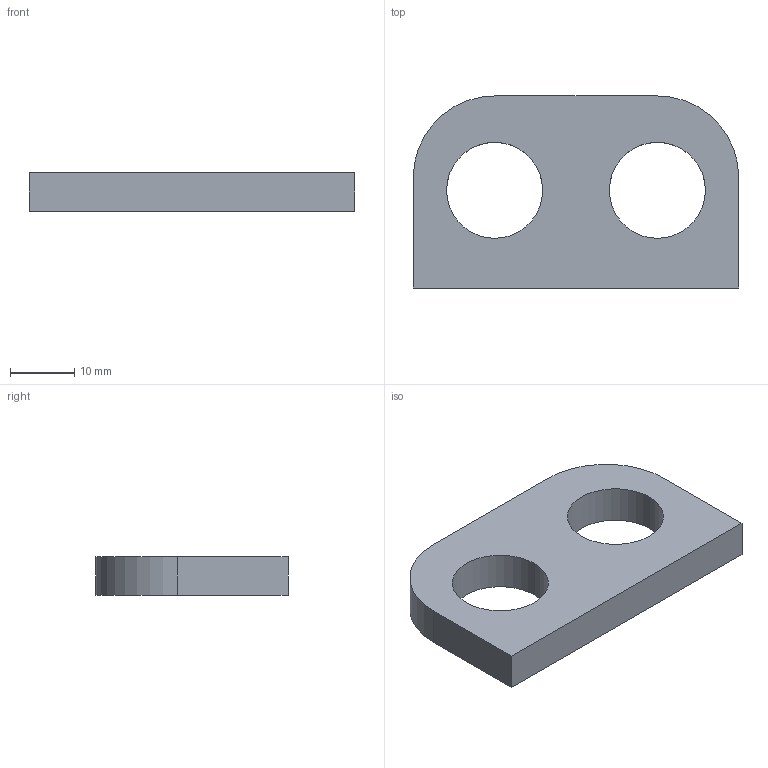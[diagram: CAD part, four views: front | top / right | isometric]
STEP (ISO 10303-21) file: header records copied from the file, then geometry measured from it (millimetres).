
FILE_DESCRIPTION (( 'STEP AP214' ), '1' );
FILE_NAME ('YYDK-500-0011 油管保护罩2（500T）-4.step', '2024-11-20T05:47:20', ( '' ), ( '' ), 'SwSTEP 2.0', 'SolidWorks 2020', '' );
FILE_SCHEMA (( 'AUTOMOTIVE_DESIGN' ));
Length unit declared in the file: inch
Products named in the file (1): YYDK-500-0011 油管保护罩2（500T）-4
Bounding box: 50.8 x 29.97 x 5.99 mm (x, y, z)
Volume: 6597.3 mm3; surface area: 3668.6 mm2
Topology: 1 solids, 1 shells, 12 faces, 30 edges, 20 vertices
Faces by surface type: cylinder 6, plane 6
Entity records: 414 total; most frequent: DIRECTION 68, CARTESIAN_POINT 63, ORIENTED_EDGE 60, EDGE_CURVE 30, AXIS2_PLACEMENT_3D 25, VERTEX_POINT 20, LINE 18, VECTOR 18
